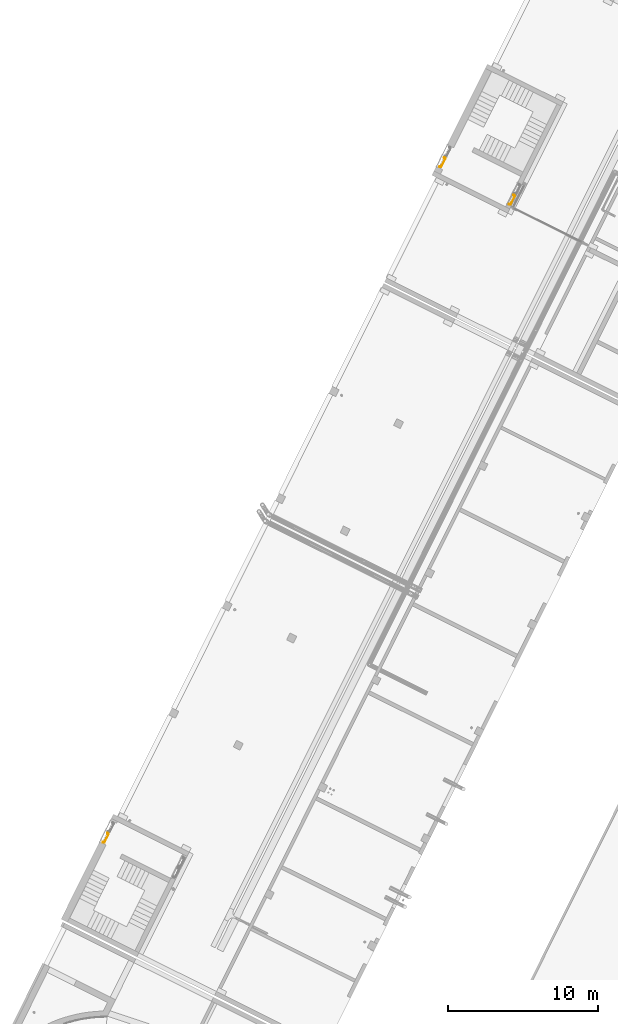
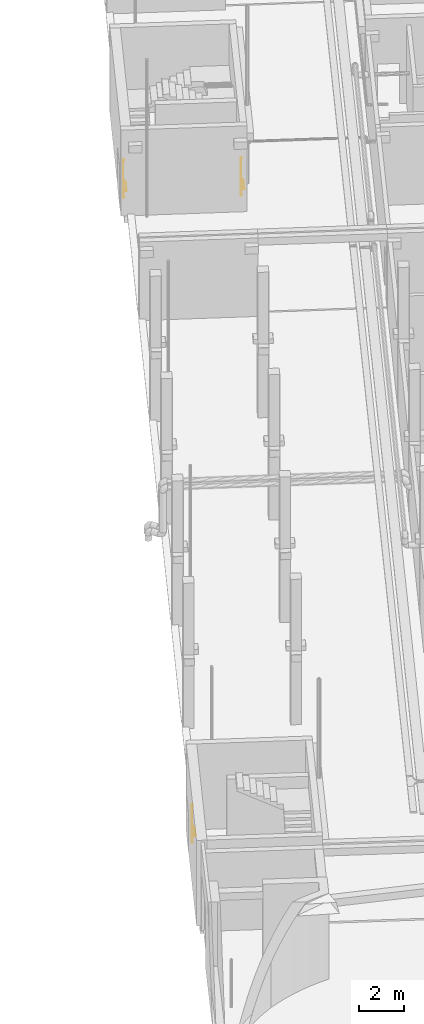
# One storey, part 26 of 91: 3 doors.
"""IFC2X3 building model written with IfcOpenShell, lengths in metres."""

import ifcopenshell
import ifcopenshell.guid

model = None  # the IFC model being written
_history = None  # IfcOwnerHistory: only IFC2X3 demands one
_inside = {}  # id of a spatial element -> (the spatial element, [elements in it])
_under = {}  # id of a project, library or spatial element -> (it, [spatial elements below it])
_declared = {}  # id of a project -> (the project, [libraries it declares])
_typed = {}  # id of a type object -> (the type object, [elements of that type])
_made_of = {}  # id of a material, layer set ... -> (it, [elements and type objects made of it])


def new_model(schema):
    """Start an empty IFC model of exactly this schema.

    Asked for "IFC4X3", IfcOpenShell would pick the latest addendum, in which some entities
    have other attributes; the version numbers below select the first issue.
    IFC2X3 requires an IfcOwnerHistory on every rooted entity: one is made here for all.
    """
    global model, _history
    if schema == "IFC4X3":
        model = ifcopenshell.file(schema_version=(4, 3, 0, 0))
    else:
        model = ifcopenshell.file(schema=schema)
    _inside.clear()
    _under.clear()
    _declared.clear()
    _typed.clear()
    _made_of.clear()
    _history = None
    if model.schema == "IFC2X3":
        org = make("IfcOrganization", Name="unknown")
        user = make(
            "IfcPersonAndOrganization",
            ThePerson=make("IfcPerson", FamilyName="unknown"),
            TheOrganization=org,
        )
        app = make(
            "IfcApplication",
            ApplicationDeveloper=org,
            Version="unknown",
            ApplicationFullName="unknown",
            ApplicationIdentifier="unknown",
        )
        _history = make(
            "IfcOwnerHistory",
            OwningUser=user,
            OwningApplication=app,
            ChangeAction="ADDED",
            CreationDate=0,
        )
    return model


def make(cls, **values):
    """One entity of the class cls with the attributes given. An attribute that is None is left unset."""
    return model.create_entity(
        cls, **{name: value for name, value in values.items() if value is not None}
    )


def entity(cls, *values):
    """Any entity or typed value of the class cls, its attributes in the order of the schema. None: left unset."""
    e = model.create_entity(cls)
    for i, value in enumerate(values):
        if value is not None:
            e[i] = value
    return e


def rooted(cls, **values):
    """An entity with a GlobalId (a new one), such as an element, a storey or a relation."""
    return make(cls, GlobalId=ifcopenshell.guid.new(), OwnerHistory=_history, **values)


def si_unit(unit_type, name, prefix=None):
    """IfcSIUnit, for example si_unit("LENGTHUNIT", "METRE", prefix="MILLI")."""
    return make("IfcSIUnit", UnitType=unit_type, Prefix=prefix, Name=name)


def converted_unit(unit_type, name, factor, base, dimensions=None, offset=None):
    """IfcConversionBasedUnit, such as the inch: factor (a typed value) times the base unit."""
    return make(
        "IfcConversionBasedUnit"
        if offset is None
        else "IfcConversionBasedUnitWithOffset",
        ConversionOffset=offset,
        Dimensions=None
        if dimensions is None
        else entity("IfcDimensionalExponents", *dimensions),
        UnitType=unit_type,
        Name=name,
        ConversionFactor=make(
            "IfcMeasureWithUnit", ValueComponent=factor, UnitComponent=base
        ),
    )


def derived_unit(unit_type, elements):
    """IfcDerivedUnit: a product of units, each with its exponent."""
    return make(
        "IfcDerivedUnit",
        Elements=[
            make("IfcDerivedUnitElement", Unit=unit, Exponent=power)
            for unit, power in elements
        ],
        UnitType=unit_type,
    )


def assignment(units):
    """IfcUnitAssignment: the units of a project."""
    return None if units is None else make("IfcUnitAssignment", Units=units)


def point(xyz):
    """IfcCartesianPoint."""
    return None if xyz is None else make("IfcCartesianPoint", Coordinates=xyz)


def direction(xyz):
    """IfcDirection."""
    return None if xyz is None else make("IfcDirection", DirectionRatios=xyz)


def frame(location, z_axis=None, x_axis=None):
    """IfcAxis2Placement3D, a coordinate frame: its origin and axes. An axis left out is left unset."""
    return make(
        "IfcAxis2Placement3D",
        Location=point(location),
        Axis=direction(z_axis),
        RefDirection=direction(x_axis),
    )


def origin():
    """The frame at (0, 0, 0) with its axes left unset."""
    return frame((0.0, 0.0, 0.0))


def place(relative_to, where):
    """IfcLocalPlacement: puts the frame where relative to a parent placement (None: the world)."""
    return make(
        "IfcLocalPlacement", PlacementRelTo=relative_to, RelativePlacement=where
    )


def context(
    kind, dimensions, precision=None, world=None, true_north=None, identifier=None
):
    """IfcGeometricRepresentationContext, for example the 3D "Model" context."""
    return make(
        "IfcGeometricRepresentationContext",
        ContextIdentifier=identifier,
        ContextType=kind,
        CoordinateSpaceDimension=dimensions,
        Precision=precision,
        WorldCoordinateSystem=world,
        TrueNorth=true_north,
    )


def subcontext(parent, identifier, kind, view, scale=None):
    """IfcGeometricRepresentationSubContext, for example "Body" below "Model"."""
    return make(
        "IfcGeometricRepresentationSubContext",
        ContextIdentifier=identifier,
        ContextType=kind,
        ParentContext=parent,
        TargetScale=scale,
        TargetView=view,
    )


def project(units=None, contexts=None):
    """IfcProject with its units and contexts."""
    return rooted(
        "IfcProject",
        Name="project",
        RepresentationContexts=contexts,
        UnitsInContext=assignment(units),
    )


def spatial(cls, under=None, at=None, **own):
    """A site, building, storey or space (cls), placed at a placement, below another one or the project."""
    s = rooted(cls, ObjectPlacement=at, **own)
    if under is not None:
        _under.setdefault(under.id(), (under, []))[1].append(s)
    return s


def faces_of(points, faces, orient=None, outer=None):
    """IfcFace entities. A face is a list of loops; a loop is a list of indices into points, from 0.

    orient and outer hold one flag for each loop. By default every Orientation is true, the
    first loop of a face is its IfcFaceOuterBound and the others are IfcFaceBound.
    """
    made = []
    for i, loops in enumerate(faces):
        bounds = []
        for j, loop in enumerate(loops):
            is_outer = j == 0 if outer is None else outer[i][j]
            bounds.append(
                make(
                    "IfcFaceOuterBound" if is_outer else "IfcFaceBound",
                    Bound=make("IfcPolyLoop", Polygon=[points[k] for k in loop]),
                    Orientation=True if orient is None else orient[i][j],
                )
            )
        made.append(make("IfcFace", Bounds=bounds))
    return made


def faceted_brep(points, faces, orient=None, outer=None, voids=None):
    """IfcFacetedBrep: a solid bounded by flat faces; with voids (closed shells), ...WithVoids."""
    shared = [point(p) for p in points]
    hull = make("IfcClosedShell", CfsFaces=faces_of(shared, faces, orient, outer))
    if voids is None:
        return make("IfcFacetedBrep", Outer=hull)
    return make(
        "IfcFacetedBrepWithVoids",
        Outer=hull,
        Voids=[
            make(cls, CfsFaces=faces_of(shared, fs, o, b)) for cls, fs, o, b in voids
        ],
    )


def shape(context_of_items, identifier, shape_type, items):
    """IfcShapeRepresentation: the items that make up one representation, for example the "Body"."""
    return make(
        "IfcShapeRepresentation",
        ContextOfItems=context_of_items,
        RepresentationIdentifier=identifier,
        RepresentationType=shape_type,
        Items=items,
    )


def source(mapping_origin, context_of_items, identifier, shape_type, items):
    """IfcRepresentationMap: a shape defined once, which mapped items show again and again."""
    return make(
        "IfcRepresentationMap",
        MappingOrigin=mapping_origin,
        MappedRepresentation=shape(context_of_items, identifier, shape_type, items),
    )


def transform(
    local_origin,
    x_axis=None,
    y_axis=None,
    z_axis=None,
    scale=None,
    scale2=None,
    scale3=None,
    uniform=True,
):
    """IfcCartesianTransformationOperator3D, or its non-uniform kind. x_axis, y_axis, z_axis: its Axis1, 2, 3."""
    if uniform:
        return make(
            "IfcCartesianTransformationOperator3D",
            Axis1=direction(x_axis),
            Axis2=direction(y_axis),
            LocalOrigin=point(local_origin),
            Scale=scale,
            Axis3=direction(z_axis),
        )
    return make(
        "IfcCartesianTransformationOperator3DnonUniform",
        Axis1=direction(x_axis),
        Axis2=direction(y_axis),
        LocalOrigin=point(local_origin),
        Scale=scale,
        Axis3=direction(z_axis),
        Scale2=scale2,
        Scale3=scale3,
    )


def mapped(mapping_source, mapping_target):
    """IfcMappedItem: shows the shape of a source again, moved by a transform."""
    return make(
        "IfcMappedItem", MappingSource=mapping_source, MappingTarget=mapping_target
    )


def material(Name=None, Category=None):
    """IfcMaterial."""
    return make("IfcMaterial", Name=Name, Category=Category)


def material_list(materials):
    """IfcMaterialList."""
    return make("IfcMaterialList", Materials=materials)


def made_of(thing, what):
    """Note that an element or type object is made of a material, layer set ...; save() writes the relation."""
    if what is not None:
        _made_of.setdefault(what.id(), (what, []))[1].append(thing)
    return thing


def type_object(cls, material=None, **own):
    """A type object (cls), such as IfcWallType, which elements share."""
    return made_of(rooted(cls, **own), material)


def type_shapes(of_type, sources):
    """Give a type object the sources (RepresentationMaps) that its elements show as mapped items."""
    of_type.RepresentationMaps = sources


def element(
    cls,
    number,
    at=None,
    inside=None,
    cuts=None,
    type_object=None,
    material=None,
    context=None,
    identifier="Body",
    shape_type=None,
    held_by="IfcProductDefinitionShape",
    body=None,
    shapes=None,
    **own,
):
    """One element of the class cls, such as IfcWall. Its Tag is "e" and its number.

    at: its placement. inside: the storey or other place that contains it. cuts: it is an
    opening in that element (IfcRelVoidsElement). A single representation is given by context,
    identifier, shape_type and body (its items); several are given by shapes. held_by: the class
    of the entity that holds the representations. save() writes the other relations.
    """
    e = rooted(cls, Tag="e%d" % number, ObjectPlacement=at, **own)
    if body is not None:
        shapes = [shape(context, identifier, shape_type, body)]
    if shapes is not None:
        e.Representation = make(held_by, Representations=shapes)
    if inside is not None:
        _inside.setdefault(inside.id(), (inside, []))[1].append(e)
    if cuts is not None:
        rooted(
            "IfcRelVoidsElement", RelatingBuildingElement=cuts, RelatedOpeningElement=e
        )
    if type_object is not None:
        _typed.setdefault(type_object.id(), (type_object, []))[1].append(e)
    return made_of(e, material)


def aggregate(whole, parts):
    """IfcRelAggregates: a whole, such as a stair, and the parts it consists of."""
    return rooted("IfcRelAggregates", RelatingObject=whole, RelatedObjects=parts)


def save(model, path):
    """Write the relations noted so far, then the file.

    IfcRelAggregates (storeys below a building ...), IfcRelContainedInSpatialStructure (elements
    in a storey), IfcRelDefinesByType, IfcRelAssociatesMaterial and IfcRelDeclares: one each for
    every whole, place, type object, material and project.
    """
    for whole, parts in _under.values():
        aggregate(whole, parts)
    for where, things in _inside.values():
        rooted(
            "IfcRelContainedInSpatialStructure",
            RelatedElements=things,
            RelatingStructure=where,
        )
    for kind, things in _typed.values():
        rooted("IfcRelDefinesByType", RelatedObjects=things, RelatingType=kind)
    for what, things in _made_of.values():
        rooted("IfcRelAssociatesMaterial", RelatedObjects=things, RelatingMaterial=what)
    for by, libraries in _declared.values():
        rooted("IfcRelDeclares", RelatingContext=by, RelatedDefinitions=libraries)
    model.write(path)


model = new_model("IFC2X3")

# Units and contexts
model_context = context("Model", 3, precision=1e-05, world=origin(), true_north=direction((0.894925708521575, 0.446215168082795)))
context_of_model = context(None, 3, precision=1e-05, world=origin(), true_north=direction((0.894925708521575, 0.446215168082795)))
body_context = subcontext(model_context, "Body", "Model", "MODEL_VIEW")
ifc_project = project(units=[si_unit("LENGTHUNIT", "METRE"), si_unit("AREAUNIT", "SQUARE_METRE"), si_unit("VOLUMEUNIT", "CUBIC_METRE"), converted_unit("PLANEANGLEUNIT", "DEGREE", entity("IfcRatioMeasure", 0.0174532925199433), si_unit("PLANEANGLEUNIT", "RADIAN"), dimensions=[0, 0, 0, 0, 0, 0, 0]), si_unit("MASSUNIT", "GRAM", prefix="KILO"), si_unit("TIMEUNIT", "SECOND"), si_unit("FREQUENCYUNIT", "HERTZ"), si_unit("THERMODYNAMICTEMPERATUREUNIT", "DEGREE_CELSIUS"), derived_unit("THERMALTRANSMITTANCEUNIT", [(si_unit("MASSUNIT", "GRAM", prefix="KILO"), 1), (si_unit("THERMODYNAMICTEMPERATUREUNIT", "KELVIN"), -1), (si_unit("TIMEUNIT", "SECOND"), -3)]), derived_unit("VOLUMETRICFLOWRATEUNIT", [(si_unit("LENGTHUNIT", "METRE"), 3), (si_unit("TIMEUNIT", "SECOND"), -1)]), si_unit("ELECTRICCURRENTUNIT", "AMPERE"), si_unit("ELECTRICVOLTAGEUNIT", "VOLT"), si_unit("POWERUNIT", "WATT"), si_unit("FORCEUNIT", "NEWTON", prefix="KILO"), si_unit("ILLUMINANCEUNIT", "LUX"), si_unit("LUMINOUSFLUXUNIT", "LUMEN"), si_unit("LUMINOUSINTENSITYUNIT", "CANDELA"), si_unit("PRESSUREUNIT", "PASCAL")], contexts=[model_context, context_of_model])

# Site, building, storey
site_placement = place(None, frame((218.228324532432, 584.720189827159, 0.0), z_axis=(0.0, 0.0, 1.0), x_axis=(0.446215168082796, 0.894925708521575, 0.0)))
site = spatial("IfcSite", under=ifc_project, at=site_placement, Name="Default", CompositionType="ELEMENT")
building_placement = place(site_placement, origin())
building = spatial("IfcBuilding", under=site, at=building_placement, CompositionType="ELEMENT")
storey_placement = place(building_placement, origin())
storey = spatial("IfcBuildingStorey", under=building, at=storey_placement, Name="0 - Piano Terra", CompositionType="ELEMENT", Elevation=0.0)

# Doors
ifc_material_1 = material(Name="Peinture - Gris fonçé")
ifc_material_2 = material(Name="Peinture - Gris")
ifc_material_list_1 = material_list([ifc_material_1, ifc_material_2])
ifc_material_list_2 = material_list([ifc_material_1, ifc_material_2])
door_style = type_object("IfcDoorStyle", Name="BarreAP", ConstructionType="NOTDEFINED", OperationType="NOTDEFINED", ParameterTakesPrecedence=False, Sizeable=False, material=ifc_material_list_2)
shared_shape = source(origin(), body_context, "Body", "Brep", [
    faceted_brep([(0.660000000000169, 0.110048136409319, 0.817251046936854), (0.660000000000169, 0.112636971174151, 0.815264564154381), (0.660000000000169, 0.115651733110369, 0.814015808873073), (0.660000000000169, 0.118886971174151, 0.813589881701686), (0.660000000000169, 0.122122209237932, 0.814015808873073), (0.660000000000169, 0.125136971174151, 0.815264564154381), (0.660000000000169, 0.127725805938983, 0.817251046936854), (0.660000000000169, 0.129712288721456, 0.819839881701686), (0.660000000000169, 0.130961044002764, 0.822854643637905), (0.660000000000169, 0.131386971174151, 0.826089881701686), (0.660000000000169, 0.130961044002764, 0.829325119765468), (0.660000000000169, 0.129712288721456, 0.832339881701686), (0.660000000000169, 0.127725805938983, 0.834928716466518), (0.660000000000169, 0.125136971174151, 0.836915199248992), (0.660000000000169, 0.122122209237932, 0.838163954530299), (0.660000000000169, 0.118886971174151, 0.838589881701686), (0.660000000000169, 0.115651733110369, 0.838163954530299), (0.660000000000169, 0.112636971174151, 0.836915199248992), (0.660000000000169, 0.110048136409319, 0.834928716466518), (0.660000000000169, 0.108061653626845, 0.832339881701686), (0.660000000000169, 0.106812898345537, 0.829325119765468), (0.660000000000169, 0.106386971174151, 0.826089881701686), (0.660000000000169, 0.106812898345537, 0.822854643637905), (0.660000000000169, 0.108061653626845, 0.819839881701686), (0.0250000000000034, 0.115651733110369, 0.838163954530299), (0.0250000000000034, 0.118886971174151, 0.838589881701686), (0.0250000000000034, 0.122122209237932, 0.838163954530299), (0.0250000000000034, 0.125136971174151, 0.836915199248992), (0.0250000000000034, 0.127725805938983, 0.834928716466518), (0.0250000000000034, 0.129712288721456, 0.832339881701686), (0.0250000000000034, 0.130961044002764, 0.829325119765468), (0.0250000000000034, 0.131386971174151, 0.826089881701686), (0.0250000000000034, 0.130961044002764, 0.822854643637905), (0.0250000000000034, 0.129712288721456, 0.819839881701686), (0.0250000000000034, 0.127725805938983, 0.817251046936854), (0.0250000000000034, 0.125136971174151, 0.815264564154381), (0.0250000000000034, 0.122122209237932, 0.814015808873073), (0.0250000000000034, 0.118886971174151, 0.813589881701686), (0.0250000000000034, 0.115651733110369, 0.814015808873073), (0.0250000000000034, 0.112636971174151, 0.815264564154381), (0.0250000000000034, 0.110048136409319, 0.817251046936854), (0.0250000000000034, 0.108061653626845, 0.819839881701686), (0.0250000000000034, 0.106812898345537, 0.822854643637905), (0.0250000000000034, 0.106386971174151, 0.826089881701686), (0.0250000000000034, 0.106812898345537, 0.829325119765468), (0.0250000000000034, 0.108061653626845, 0.832339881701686), (0.0250000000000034, 0.110048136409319, 0.834928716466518), (0.0250000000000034, 0.112636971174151, 0.836915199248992), (0.187822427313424, 0.117501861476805, 0.813666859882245), (0.148450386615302, 0.131386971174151, 0.826089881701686), (0.342500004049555, 0.117635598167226, 0.813652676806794), (0.413099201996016, 0.106386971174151, 0.826089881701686), (0.342500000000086, 0.106386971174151, 0.826089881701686), (0.271900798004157, 0.106386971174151, 0.826089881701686), (0.497177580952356, 0.117501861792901, 0.813666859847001), (0.53654961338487, 0.131386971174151, 0.826089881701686), (0.342500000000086, 0.131386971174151, 0.826089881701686), (0.413099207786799, 0.131386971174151, 0.826089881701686), (0.536549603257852, 0.106386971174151, 0.826089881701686), (0.14845039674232, 0.106386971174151, 0.826089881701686), (0.271900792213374, 0.131386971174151, 0.826089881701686), (0.497177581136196, 0.120272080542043, 0.83851290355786), (0.187822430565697, 0.120272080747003, 0.838512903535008), (0.342500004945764, 0.120138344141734, 0.838527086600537)], [[[0, 1, 2, 3, 4, 5, 6, 7, 8, 9, 10, 11, 12, 13, 14, 15, 16, 17, 18, 19, 20, 21, 22, 23]], [[24, 25, 26, 27, 28, 29, 30, 31, 32, 33, 34, 35, 36, 37, 38, 39, 40, 41, 42, 43, 44, 45, 46, 47]], [[38, 48, 39]], [[35, 48, 36]], [[34, 49, 35]], [[40, 39, 48]], [[50, 51, 52, 53]], [[2, 54, 3]], [[7, 6, 55]], [[34, 33, 49]], [[5, 54, 55]], [[48, 38, 37]], [[32, 49, 33]], [[31, 49, 32]], [[55, 9, 8]], [[56, 50, 48]], [[50, 56, 54]], [[54, 56, 57, 55]], [[54, 23, 22]], [[8, 7, 55]], [[36, 48, 37]], [[48, 41, 40]], [[41, 48, 42]], [[53, 42, 48]], [[53, 48, 50]], [[22, 21, 58, 51]], [[42, 53, 59, 43]], [[48, 49, 60, 56]], [[5, 55, 6]], [[54, 5, 4]], [[51, 54, 22]], [[54, 4, 3]], [[1, 0, 54]], [[54, 2, 1]], [[48, 35, 49]], [[54, 51, 50]], [[54, 0, 23]], [[61, 11, 10]], [[62, 47, 59]], [[57, 61, 10]], [[24, 47, 62]], [[52, 63, 62]], [[61, 12, 11]], [[58, 19, 18]], [[46, 45, 59]], [[26, 25, 62]], [[17, 61, 58]], [[44, 43, 59]], [[58, 21, 20]], [[14, 61, 15]], [[58, 20, 19]], [[61, 63, 52]], [[24, 62, 25]], [[59, 47, 46]], [[62, 28, 27]], [[61, 52, 51, 58]], [[63, 57, 56, 60]], [[44, 59, 45]], [[28, 62, 29]], [[29, 62, 30]], [[60, 30, 62]], [[60, 62, 63]], [[10, 9, 55, 57]], [[30, 60, 49, 31]], [[26, 62, 27]], [[17, 58, 18]], [[17, 16, 61]], [[61, 16, 15]], [[61, 13, 12]], [[13, 61, 14]], [[61, 57, 63]], [[62, 59, 53, 52]]]),
    faceted_brep([(0.660000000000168, 0.0117100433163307, 0.885054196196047), (0.660000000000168, 0.00829982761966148, 0.888995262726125), (0.660000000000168, 0.0060236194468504, 0.893683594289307), (0.660000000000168, 0.00503598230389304, 0.898800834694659), (0.660000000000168, 0.00540398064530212, 0.903999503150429), (0.660000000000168, 0.00710262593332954, 0.908926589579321), (0.660000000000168, 0.0100165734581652, 0.913247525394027), (0.660000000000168, 0.0139479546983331, 0.916668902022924), (0.660000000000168, 0.0186298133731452, 0.918958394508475), (0.660000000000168, 0.0237442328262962, 0.919960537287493), (0.660000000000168, 0.0289439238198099, 0.919607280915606), (0.660000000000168, 0.0338758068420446, 0.91792261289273), (0.660000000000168, 0.0382049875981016, 0.915020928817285), (0.660000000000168, 0.041637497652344, 0.911099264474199), (0.660000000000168, 0.0439402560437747, 0.906423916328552), (0.660000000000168, 0.0755453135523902, 0.891366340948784), (0.660000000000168, 0.10242643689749, 0.868938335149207), (0.660000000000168, 0.122902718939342, 0.840542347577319), (0.660000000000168, 0.126402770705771, 0.839071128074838), (0.660000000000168, 0.129421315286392, 0.836768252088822), (0.660000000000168, 0.13176496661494, 0.833781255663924), (0.660000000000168, 0.133283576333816, 0.830301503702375), (0.660000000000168, 0.133879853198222, 0.826551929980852), (0.660000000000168, 0.133515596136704, 0.822772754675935), (0.660000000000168, 0.132214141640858, 0.819206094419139), (0.660000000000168, 0.130058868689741, 0.816080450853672), (0.660000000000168, 0.127187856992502, 0.813596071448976), (0.660000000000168, 0.123785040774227, 0.811912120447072), (0.660000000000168, 0.120068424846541, 0.811136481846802), (0.660000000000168, 0.11627611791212, 0.811318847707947), (0.660000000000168, 0.112651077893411, 0.812447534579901), (0.660000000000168, 0.109425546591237, 0.814450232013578), (0.660000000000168, 0.106806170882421, 0.817198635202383), (0.660000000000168, 0.104960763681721, 0.820516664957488), (0.660000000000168, 0.10400755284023, 0.824191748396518), (0.660000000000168, 0.104007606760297, 0.827988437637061), (0.660000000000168, 0.10496092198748, 0.831663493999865), (0.660000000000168, 0.0879705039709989, 0.855114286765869), (0.660000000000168, 0.065856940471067, 0.873811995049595), (0.660000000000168, 0.039908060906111, 0.886667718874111), (0.660000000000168, 0.0359573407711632, 0.883268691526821), (0.660000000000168, 0.0312625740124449, 0.881005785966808), (0.660000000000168, 0.0261425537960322, 0.880032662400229), (0.660000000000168, 0.0209449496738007, 0.880415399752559), (0.660000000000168, 0.0160226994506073, 0.88212800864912), (0.670000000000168, 0.133515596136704, 0.822772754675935), (0.670000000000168, 0.133879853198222, 0.826551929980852), (0.670000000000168, 0.133283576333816, 0.830301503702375), (0.670000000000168, 0.13176496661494, 0.833781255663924), (0.670000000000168, 0.129421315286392, 0.836768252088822), (0.670000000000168, 0.126402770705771, 0.839071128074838), (0.670000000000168, 0.122902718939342, 0.840542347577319), (0.670000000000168, 0.10242643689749, 0.868938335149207), (0.670000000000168, 0.0755453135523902, 0.891366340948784), (0.670000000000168, 0.0439402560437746, 0.906423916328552), (0.670000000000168, 0.041637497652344, 0.911099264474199), (0.670000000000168, 0.0382049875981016, 0.915020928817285), (0.670000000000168, 0.0338758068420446, 0.91792261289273), (0.670000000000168, 0.0289439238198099, 0.919607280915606), (0.670000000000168, 0.0237442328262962, 0.919960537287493), (0.670000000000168, 0.0186298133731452, 0.918958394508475), (0.670000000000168, 0.0139479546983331, 0.916668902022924), (0.670000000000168, 0.0100165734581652, 0.913247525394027), (0.670000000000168, 0.00710262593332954, 0.908926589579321), (0.670000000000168, 0.00540398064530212, 0.903999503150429), (0.670000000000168, 0.00503598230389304, 0.898800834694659), (0.670000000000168, 0.0060236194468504, 0.893683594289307), (0.670000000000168, 0.00829982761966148, 0.888995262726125), (0.670000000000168, 0.0117100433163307, 0.885054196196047), (0.670000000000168, 0.0160226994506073, 0.88212800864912), (0.670000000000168, 0.0209449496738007, 0.880415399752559), (0.670000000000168, 0.0261425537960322, 0.880032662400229), (0.670000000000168, 0.0312625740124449, 0.881005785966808), (0.670000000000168, 0.0359573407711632, 0.883268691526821), (0.670000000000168, 0.039908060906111, 0.886667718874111), (0.670000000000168, 0.065856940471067, 0.873811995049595), (0.670000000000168, 0.0879705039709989, 0.855114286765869), (0.670000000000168, 0.10496092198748, 0.831663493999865), (0.670000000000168, 0.104007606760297, 0.827988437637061), (0.670000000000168, 0.10400755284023, 0.824191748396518), (0.670000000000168, 0.104960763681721, 0.820516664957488), (0.670000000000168, 0.106806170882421, 0.817198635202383), (0.670000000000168, 0.109425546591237, 0.814450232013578), (0.670000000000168, 0.112651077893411, 0.812447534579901), (0.670000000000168, 0.11627611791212, 0.811318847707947), (0.670000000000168, 0.120068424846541, 0.811136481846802), (0.670000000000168, 0.123785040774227, 0.811912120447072), (0.670000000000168, 0.127187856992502, 0.813596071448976), (0.670000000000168, 0.130058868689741, 0.816080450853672), (0.670000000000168, 0.132214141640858, 0.819206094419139)], [[[0, 1, 2, 3, 4, 5, 6, 7, 8, 9, 10, 11, 12, 13, 14, 15, 16, 17, 18, 19, 20, 21, 22, 23, 24, 25, 26, 27, 28, 29, 30, 31, 32, 33, 34, 35, 36, 37, 38, 39, 40, 41, 42, 43, 44]], [[45, 46, 47, 48, 49, 50, 51, 52, 53, 54, 55, 56, 57, 58, 59, 60, 61, 62, 63, 64, 65, 66, 67, 68, 69, 70, 71, 72, 73, 74, 75, 76, 77, 78, 79, 80, 81, 82, 83, 84, 85, 86, 87, 88, 89]], [[54, 14, 13, 55]], [[56, 12, 11, 57]], [[56, 55, 13, 12]], [[58, 57, 11, 10]], [[60, 59, 9, 8]], [[62, 61, 7, 6]], [[7, 61, 60, 8]], [[9, 59, 58, 10]], [[62, 6, 5, 63]], [[4, 64, 63, 5]], [[64, 4, 3, 65]], [[66, 2, 1, 67]], [[66, 65, 3, 2]], [[68, 67, 1, 0]], [[70, 69, 44, 43]], [[72, 71, 42, 41]], [[42, 71, 70, 43]], [[44, 69, 68, 0]], [[72, 41, 40, 73]], [[40, 39, 74, 73]], [[39, 38, 75, 74]], [[38, 37, 76, 75]], [[37, 36, 77, 76]], [[77, 36, 35, 78]], [[79, 34, 33, 80]], [[79, 78, 35, 34]], [[81, 80, 33, 32]], [[83, 82, 31, 30]], [[85, 84, 29, 28]], [[29, 84, 83, 30]], [[31, 82, 81, 32]], [[85, 28, 27, 86]], [[27, 26, 87, 86]], [[87, 26, 25, 88]], [[89, 24, 23, 45]], [[89, 88, 25, 24]], [[46, 45, 23, 22]], [[48, 47, 21, 20]], [[50, 49, 19, 18]], [[19, 49, 48, 20]], [[21, 47, 46, 22]], [[50, 18, 17, 51]], [[16, 52, 51, 17]], [[16, 15, 53, 52]], [[14, 54, 53, 15]]]),
    faceted_brep([(0.025, 0.109425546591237, 0.81445023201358), (0.025, 0.112651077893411, 0.812447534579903), (0.025, 0.11627611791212, 0.811318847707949), (0.025, 0.120068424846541, 0.811136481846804), (0.025, 0.123785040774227, 0.811912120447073), (0.025, 0.127187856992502, 0.813596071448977), (0.025, 0.130058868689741, 0.816080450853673), (0.025, 0.132214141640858, 0.819206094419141), (0.025, 0.133515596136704, 0.822772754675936), (0.025, 0.133879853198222, 0.826551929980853), (0.025, 0.133283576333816, 0.830301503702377), (0.025, 0.13176496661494, 0.833781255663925), (0.025, 0.129421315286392, 0.836768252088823), (0.025, 0.126402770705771, 0.839071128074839), (0.025, 0.122902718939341, 0.840542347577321), (0.025, 0.10242643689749, 0.868938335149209), (0.025, 0.0755453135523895, 0.891366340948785), (0.025, 0.0439402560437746, 0.906423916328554), (0.025, 0.041637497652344, 0.9110992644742), (0.025, 0.0382049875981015, 0.915020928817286), (0.025, 0.0338758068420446, 0.917922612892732), (0.025, 0.0289439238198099, 0.919607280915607), (0.025, 0.0237442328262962, 0.919960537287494), (0.025, 0.0186298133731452, 0.918958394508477), (0.025, 0.0139479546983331, 0.916668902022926), (0.025, 0.0100165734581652, 0.913247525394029), (0.025, 0.00710262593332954, 0.908926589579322), (0.025, 0.00540398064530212, 0.903999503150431), (0.025, 0.00503598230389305, 0.89880083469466), (0.025, 0.00602361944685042, 0.893683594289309), (0.025, 0.00829982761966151, 0.888995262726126), (0.025, 0.0117100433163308, 0.885054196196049), (0.025, 0.0160226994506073, 0.882128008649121), (0.025, 0.0209449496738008, 0.880415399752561), (0.025, 0.0261425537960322, 0.88003266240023), (0.025, 0.031262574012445, 0.881005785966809), (0.025, 0.0359573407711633, 0.883268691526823), (0.025, 0.0399080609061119, 0.886667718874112), (0.025, 0.0658569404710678, 0.873811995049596), (0.025, 0.0879705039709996, 0.85511428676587), (0.025, 0.10496092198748, 0.831663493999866), (0.025, 0.104007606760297, 0.827988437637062), (0.025, 0.10400755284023, 0.824191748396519), (0.025, 0.104960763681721, 0.82051666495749), (0.025, 0.106806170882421, 0.817198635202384), (0.015, 0.0139479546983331, 0.916668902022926), (0.015, 0.0186298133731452, 0.918958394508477), (0.015, 0.0237442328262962, 0.919960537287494), (0.015, 0.0289439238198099, 0.919607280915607), (0.015, 0.0338758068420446, 0.917922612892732), (0.015, 0.0382049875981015, 0.915020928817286), (0.015, 0.041637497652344, 0.9110992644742), (0.015, 0.0439402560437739, 0.906423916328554), (0.015, 0.0755453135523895, 0.891366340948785), (0.015, 0.10242643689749, 0.868938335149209), (0.015, 0.122902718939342, 0.84054234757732), (0.015, 0.126402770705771, 0.839071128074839), (0.015, 0.129421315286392, 0.836768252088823), (0.015, 0.13176496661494, 0.833781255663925), (0.015, 0.133283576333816, 0.830301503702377), (0.015, 0.133879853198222, 0.826551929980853), (0.015, 0.133515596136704, 0.822772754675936), (0.015, 0.132214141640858, 0.819206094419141), (0.015, 0.130058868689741, 0.816080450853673), (0.015, 0.127187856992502, 0.813596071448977), (0.015, 0.123785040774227, 0.811912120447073), (0.015, 0.120068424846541, 0.811136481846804), (0.015, 0.11627611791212, 0.811318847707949), (0.015, 0.112651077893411, 0.812447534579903), (0.015, 0.109425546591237, 0.81445023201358), (0.015, 0.106806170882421, 0.817198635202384), (0.015, 0.104960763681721, 0.82051666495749), (0.015, 0.10400755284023, 0.824191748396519), (0.015, 0.104007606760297, 0.827988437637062), (0.015, 0.10496092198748, 0.831663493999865), (0.015, 0.0879705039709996, 0.85511428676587), (0.015, 0.0658569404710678, 0.873811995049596), (0.015, 0.0399080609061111, 0.886667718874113), (0.015, 0.0359573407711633, 0.883268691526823), (0.015, 0.031262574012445, 0.881005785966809), (0.015, 0.0261425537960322, 0.88003266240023), (0.015, 0.0209449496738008, 0.880415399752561), (0.015, 0.0160226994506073, 0.882128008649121), (0.015, 0.0117100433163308, 0.885054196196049), (0.015, 0.00829982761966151, 0.888995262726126), (0.015, 0.00602361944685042, 0.893683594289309), (0.015, 0.00503598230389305, 0.89880083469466), (0.015, 0.00540398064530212, 0.903999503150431), (0.015, 0.00710262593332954, 0.908926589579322), (0.015, 0.0100165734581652, 0.913247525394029)], [[[0, 1, 2, 3, 4, 5, 6, 7, 8, 9, 10, 11, 12, 13, 14, 15, 16, 17, 18, 19, 20, 21, 22, 23, 24, 25, 26, 27, 28, 29, 30, 31, 32, 33, 34, 35, 36, 37, 38, 39, 40, 41, 42, 43, 44]], [[45, 46, 47, 48, 49, 50, 51, 52, 53, 54, 55, 56, 57, 58, 59, 60, 61, 62, 63, 64, 65, 66, 67, 68, 69, 70, 71, 72, 73, 74, 75, 76, 77, 78, 79, 80, 81, 82, 83, 84, 85, 86, 87, 88, 89]], [[16, 53, 52, 17]], [[16, 15, 54, 53]], [[14, 55, 54, 15]], [[55, 14, 13, 56]], [[57, 12, 11, 58]], [[57, 56, 13, 12]], [[59, 58, 11, 10]], [[61, 60, 9, 8]], [[63, 62, 7, 6]], [[7, 62, 61, 8]], [[9, 60, 59, 10]], [[63, 6, 5, 64]], [[5, 4, 65, 64]], [[65, 4, 3, 66]], [[67, 2, 1, 68]], [[67, 66, 3, 2]], [[69, 68, 1, 0]], [[71, 70, 44, 43]], [[73, 72, 42, 41]], [[42, 72, 71, 43]], [[44, 70, 69, 0]], [[73, 41, 40, 74]], [[40, 39, 75, 74]], [[39, 38, 76, 75]], [[38, 37, 77, 76]], [[77, 37, 36, 78]], [[79, 35, 34, 80]], [[79, 78, 36, 35]], [[81, 80, 34, 33]], [[83, 82, 32, 31]], [[85, 84, 30, 29]], [[30, 84, 83, 31]], [[32, 82, 81, 33]], [[85, 29, 28, 86]], [[27, 87, 86, 28]], [[87, 27, 26, 88]], [[89, 25, 24, 45]], [[89, 88, 26, 25]], [[46, 45, 24, 23]], [[48, 47, 22, 21]], [[50, 49, 20, 19]], [[20, 49, 48, 21]], [[22, 47, 46, 23]], [[50, 19, 18, 51]], [[18, 17, 52, 51]]]),
    faceted_brep([(0.700000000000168, 0.0500000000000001, 0.936698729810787), (0.700000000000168, 0.0250000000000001, 0.980000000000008), (0.700000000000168, 0.0, 0.980000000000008), (0.700000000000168, 0.0, 0.819999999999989), (0.700000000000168, 0.0250000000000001, 0.819999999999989), (0.700000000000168, 0.0500000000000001, 0.844999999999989), (0.670000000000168, 0.0500000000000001, 0.936698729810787), (0.670000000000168, 0.0500000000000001, 0.844999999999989), (0.670000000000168, 0.0250000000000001, 0.819999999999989), (0.670000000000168, 0.0, 0.819999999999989), (0.670000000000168, 0.0, 0.980000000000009), (0.670000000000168, 0.0250000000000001, 0.980000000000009)], [[[0, 1, 2, 3, 4, 5]], [[6, 7, 8, 9, 10, 11]], [[5, 7, 6, 0]], [[4, 8, 7, 5]], [[3, 9, 8, 4]], [[2, 10, 9, 3]], [[1, 11, 10, 2]], [[0, 6, 11, 1]]]),
    faceted_brep([(-0.0129999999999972, 0.005, 1.605), (-0.0249999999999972, 0.005, 1.605), (-0.0249999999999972, 0.0, 1.605), (-0.00799999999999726, 0.0, 1.605), (-0.00799999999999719, 0.01, 1.605), (0.00800000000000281, 0.01, 1.605), (0.00800000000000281, 0.0, 1.605), (0.0250000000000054, 0.0, 1.605), (0.0250000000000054, 0.005, 1.605), (0.013000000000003, 0.005, 1.605), (0.0130000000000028, 0.015, 1.605), (-0.0129999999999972, 0.015, 1.605), (-0.0129999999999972, 0.005, 1.595), (-0.0129999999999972, 0.015, 1.595), (0.0130000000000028, 0.015, 1.595), (0.013000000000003, 0.005, 1.595), (0.0250000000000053, 0.005, 1.595), (0.0250000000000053, 0.0, 1.595), (0.00800000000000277, 0.0, 1.595), (0.00800000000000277, 0.01, 1.595), (-0.00799999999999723, 0.01, 1.595), (-0.00799999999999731, 0.0, 1.595), (-0.0249999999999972, 0.0, 1.595), (-0.0249999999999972, 0.005, 1.595)], [[[0, 1, 2, 3, 4, 5, 6, 7, 8, 9, 10, 11]], [[12, 13, 14, 15, 16, 17, 18, 19, 20, 21, 22, 23]], [[11, 13, 12, 0]], [[10, 14, 13, 11]], [[9, 15, 14, 10]], [[8, 16, 15, 9]], [[7, 17, 16, 8]], [[6, 18, 17, 7]], [[5, 19, 18, 6]], [[4, 20, 19, 5]], [[3, 21, 20, 4]], [[2, 22, 21, 3]], [[1, 23, 22, 2]], [[0, 12, 23, 1]]]),
    faceted_brep([(0.015, 0.0500000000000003, 2.00830127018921), (0.015, 0.0500000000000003, 2.08499999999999), (0.015, 0.0, 2.08499999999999), (0.015, 0.0, 1.96499999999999), (0.015, 0.0250000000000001, 1.96499999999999), (-0.015, 0.0500000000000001, 0.106698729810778), (-0.015, 0.0500000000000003, 0.0300000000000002), (-0.015, 0.0, 0.0300000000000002), (-0.015, 0.0, 0.15), (-0.015, 0.0250000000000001, 0.15), (-0.015, 0.0250000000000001, 1.96499999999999), (-0.015, 0.0500000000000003, 2.00830127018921), (0.008, 0.0, 1.96499999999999), (0.008, 0.01, 1.96499999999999), (-0.008, 0.01, 1.96499999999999), (-0.008, 0.0, 1.96499999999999), (-0.015, 0.0, 1.96499999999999), (0.008, 0.0, 2.08499999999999), (0.008, 0.0, 2.1), (-0.008, 0.0, 2.1), (-0.008, 0.0, 2.08499999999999), (-0.015, 0.0, 2.08499999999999), (-0.008, 0.0, 0.98000000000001), (-0.015, 0.0, 0.98000000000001), (-0.015, 0.0, 0.819999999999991), (-0.008, 0.0, 0.819999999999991), (-0.008, 0.0, 0.15), (-0.008, 0.0, 0.0300000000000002), (-0.008, 0.0, 0.0149999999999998), (0.008, 0.0, 0.0149999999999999), (0.008, 0.0, 0.0300000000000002), (0.015, 0.0, 0.0300000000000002), (0.015, 0.0, 0.15), (0.008, 0.0, 0.15), (0.008, 0.0, 0.819999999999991), (0.015, 0.0, 0.819999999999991), (0.015, 0.0, 0.98000000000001), (0.008, 0.0, 0.98000000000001), (-0.015, 0.0500000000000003, 2.08499999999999), (-0.008, 0.01, 2.08499999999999), (0.008, 0.01, 2.08499999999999), (0.015, 0.0500000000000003, 0.0300000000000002), (0.015, 0.0500000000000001, 0.106698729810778), (0.008, 0.01, 0.0300000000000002), (-0.008, 0.01, 0.0300000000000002), (0.015, 0.0250000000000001, 0.15), (-0.008, 0.01, 0.15), (0.008, 0.01, 0.15), (0.008, 0.01, 2.1), (-0.008, 0.01, 2.1), (-0.008, 0.01, 0.0149999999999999), (0.008, 0.01, 0.0149999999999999), (0.015, 0.025, 0.98000000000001), (0.015, 0.025, 0.819999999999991), (0.015, 0.0500000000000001, 0.844999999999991), (0.015, 0.0500000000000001, 0.936698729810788), (-0.015, 0.025, 0.98000000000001), (-0.015, 0.0500000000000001, 0.936698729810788), (-0.015, 0.0500000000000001, 0.844999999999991), (-0.015, 0.025, 0.819999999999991), (0.008, 0.01, 0.819999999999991), (-0.008, 0.01, 0.819999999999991), (-0.008, 0.01, 0.98000000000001), (0.008, 0.01, 0.98000000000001)], [[[0, 1, 2, 3, 4]], [[5, 6, 7, 8, 9]], [[4, 10, 11, 0]], [[3, 12, 13, 14, 15, 16, 10, 4]], [[2, 17, 18, 19, 20, 21, 16, 15, 22, 23, 24, 25, 26, 8, 7, 27, 28, 29, 30, 31, 32, 33, 34, 35, 36, 37, 12, 3]], [[1, 38, 21, 20, 39, 40, 17, 2]], [[0, 11, 38, 1]], [[41, 6, 5, 42]], [[31, 30, 43, 44, 27, 7, 6, 41]], [[45, 9, 8, 26, 46, 47, 33, 32]], [[42, 5, 9, 45]], [[18, 48, 49, 19]], [[29, 28, 50, 51]], [[49, 39, 20, 19]], [[48, 40, 39, 49]], [[18, 17, 40, 48]], [[52, 36, 35, 53, 54, 55]], [[56, 57, 58, 59, 24, 23]], [[55, 57, 56, 52]], [[54, 58, 57, 55]], [[53, 59, 58, 54]], [[35, 34, 60, 61, 25, 24, 59, 53]], [[52, 56, 23, 22, 62, 63, 37, 36]], [[12, 37, 63, 13]], [[47, 60, 34, 33]], [[51, 43, 30, 29]], [[13, 63, 62, 14]], [[46, 61, 60, 47]], [[50, 44, 43, 51]], [[14, 62, 22, 15]], [[26, 25, 61, 46]], [[28, 27, 44, 50]], [[11, 10, 16, 21, 38]], [[42, 45, 32, 31, 41]]]),
    faceted_brep([(-0.00799999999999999, 0.01, 0.505), (0.00800000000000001, 0.01, 0.504999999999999), (0.00800000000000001, 0.0, 0.504999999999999), (0.0250000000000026, 0.0, 0.504999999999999), (0.0250000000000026, 0.005, 0.504999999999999), (0.013, 0.005, 0.504999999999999), (0.013, 0.015, 0.504999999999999), (-0.013, 0.015, 0.505), (-0.013, 0.005, 0.505), (-0.025, 0.005, 0.505), (-0.025, 0.0, 0.505), (-0.00800000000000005, 0.0, 0.505), (-0.00800000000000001, 0.01, 0.495), (-0.00800000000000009, 0.0, 0.495), (-0.025, 0.0, 0.495), (-0.025, 0.005, 0.495), (-0.013, 0.005, 0.495), (-0.013, 0.015, 0.495), (0.013, 0.015, 0.494999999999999), (0.013, 0.005, 0.494999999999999), (0.0250000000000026, 0.005, 0.494999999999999), (0.0250000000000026, 0.0, 0.494999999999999), (0.00799999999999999, 0.0, 0.494999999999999), (0.00799999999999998, 0.01, 0.494999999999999)], [[[0, 1, 2, 3, 4, 5, 6, 7, 8, 9, 10, 11]], [[12, 13, 14, 15, 16, 17, 18, 19, 20, 21, 22, 23]], [[11, 13, 12, 0]], [[10, 14, 13, 11]], [[9, 15, 14, 10]], [[8, 16, 15, 9]], [[7, 17, 16, 8]], [[6, 18, 17, 7]], [[5, 19, 18, 6]], [[4, 20, 19, 5]], [[3, 21, 20, 4]], [[2, 22, 21, 3]], [[1, 23, 22, 2]], [[0, 12, 23, 1]]]),
    faceted_brep([(0.015, 0.0322782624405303, 0.015), (0.015, 0.0, 0.0149999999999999), (0.015, 0.0, 0.0), (0.015, 0.0500000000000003, 0.0), (0.015, 0.0500000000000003, 0.00673621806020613), (-0.015, 0.0322782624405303, 0.015), (-0.015, 0.0500000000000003, 0.00673621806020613), (-0.015, 0.0500000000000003, 0.0), (-0.015, 0.0, 0.0), (-0.015, 0.0, 0.0149999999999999)], [[[0, 1, 2, 3, 4]], [[5, 6, 7, 8, 9]], [[4, 6, 5, 0]], [[3, 7, 6, 4]], [[2, 8, 7, 3]], [[1, 9, 8, 2]], [[0, 5, 9, 1]]]),
])
type_shapes(door_style, [shared_shape])
door_1_placement = place(storey_placement, frame((-54.0044493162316, 6.26892100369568, 0.0), z_axis=(0.0, 0.0, 1.0), x_axis=(-1.0, 0.0, 0.0)))
element("IfcDoor", 1, at=door_1_placement, inside=storey, type_object=door_style, material=ifc_material_list_1, Name="BarreAP:BarreAP", ObjectType="BarreAP", OverallHeight=2.1, OverallWidth=0.760000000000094, context=body_context, shape_type="MappedRepresentation", body=[
    mapped(shared_shape, transform((0.0, 0.0, 0.0), scale=1.0)),
])
ifc_material_list_3 = material_list([ifc_material_1, ifc_material_2])
door_2_placement = place(storey_placement, frame((-3.56078502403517, 6.26892100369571, 0.0), z_axis=(0.0, 0.0, 1.0), x_axis=(-1.0, 0.0, 0.0)))
element("IfcDoor", 2, at=door_2_placement, inside=storey, type_object=door_style, material=ifc_material_list_3, Name="BarreAP:BarreAP", ObjectType="BarreAP", OverallHeight=2.1, OverallWidth=0.760000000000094, context=body_context, shape_type="MappedRepresentation", body=[
    mapped(shared_shape, transform((0.0, 0.0, 0.0), scale=1.0)),
])
ifc_material_list_4 = material_list([ifc_material_1, ifc_material_2])
door_3_placement = place(storey_placement, frame((-3.72578502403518, 0.998921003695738, 0.0), z_axis=(0.0, 0.0, 1.0), x_axis=(-1.0, 0.0, 0.0)))
element("IfcDoor", 3, at=door_3_placement, inside=storey, type_object=door_style, material=ifc_material_list_4, Name="BarreAP:BarreAP", ObjectType="BarreAP", OverallHeight=2.1, OverallWidth=0.760000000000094, context=body_context, shape_type="MappedRepresentation", body=[
    mapped(shared_shape, transform((0.0, 0.0, 0.0), scale=1.0)),
])

save(model, "model.ifc")
